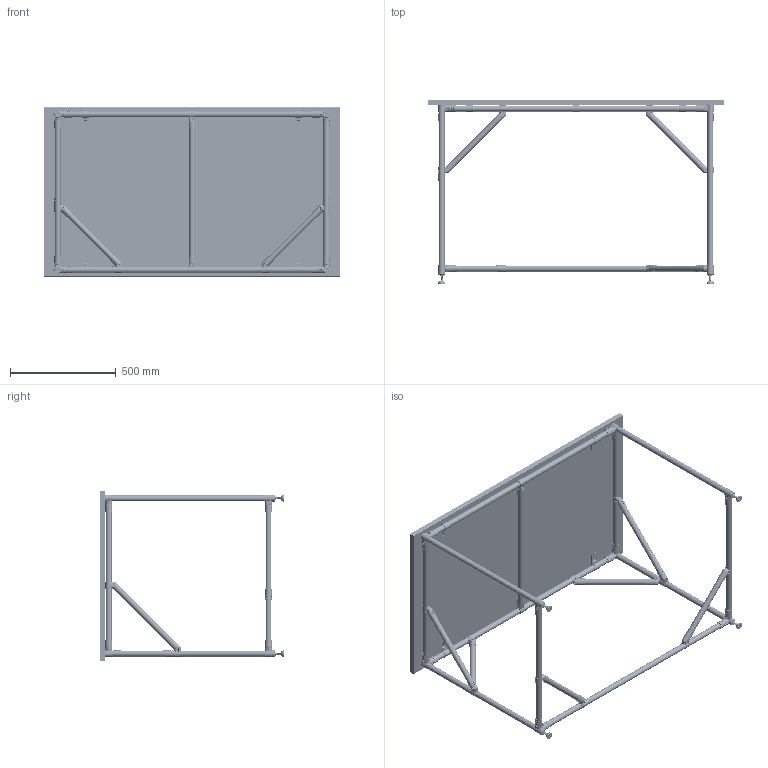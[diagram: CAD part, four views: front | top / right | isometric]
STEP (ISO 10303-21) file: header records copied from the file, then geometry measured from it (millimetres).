
FILE_DESCRIPTION (( 'STEP AP214' ), '1' );
FILE_NAME ('RSI-WSF-1400x800.STEP', '2026-09-02T06:09:02', ( 'Àëåêñåé' ), ( '' ), 'SwSTEP 2.0', 'SolidWorks 2022', '' );
FILE_SCHEMA (( 'AUTOMOTIVE_DESIGN' ));
Length unit declared in the file: millimetre
Products named in the file (12): RSI-DF14B; RSI-DF2B; RSI-FH1200LV2; PR-28X2-A_L=400 мм; PR-28X2-A_L=665 мм; RSI-DF1B; RSI-DF15B; RSI-WSF-1400x800; PR-28X2-A_L=1200 мм; Столешница 1400х800; PR-28X2-A_L=800 мм; PR-28X2-A_L=350 мм
Assembly tree (49 placements, depth 2):
  RSI-WSF-1400x800
    PR-28X2-A_L=1200 мм  x3
    PR-28X2-A_L=800 мм  x4
    PR-28X2-A_L=665 мм  x5
    PR-28X2-A_L=400 мм  x2
    RSI-DF14B  x12
    RSI-DF15B  x4
    RSI-DF2B  x6
    Столешница 1400х800
    RSI-DF1B  x4
    PR-28X2-A_L=350 мм  x4
    RSI-FH1200LV2  x4
Bounding box: 1400 x 870.2 x 800 mm (x, y, z)
Volume: 30603026.4 mm3; surface area: 4956836.8 mm2
Topology: 139 solids, 155 shells, 9062 faces, 23418 edges, 15154 vertices
Faces by surface type: cylinder 3612, plane 3242, bspline 1352, cone 492, torus 324, sphere 40
Full cylindrical faces by diameter (mm): 10 x4, 24 x18, 28 x18
Entity records: 102511 total; most frequent: CARTESIAN_POINT 62526, ORIENTED_EDGE 7672, DIRECTION 5481, EDGE_CURVE 3836, VERTEX_POINT 2492, AXIS2_PLACEMENT_3D 2022, B_SPLINE_CURVE_WITH_KNOTS 1629, EDGE_LOOP 1628
